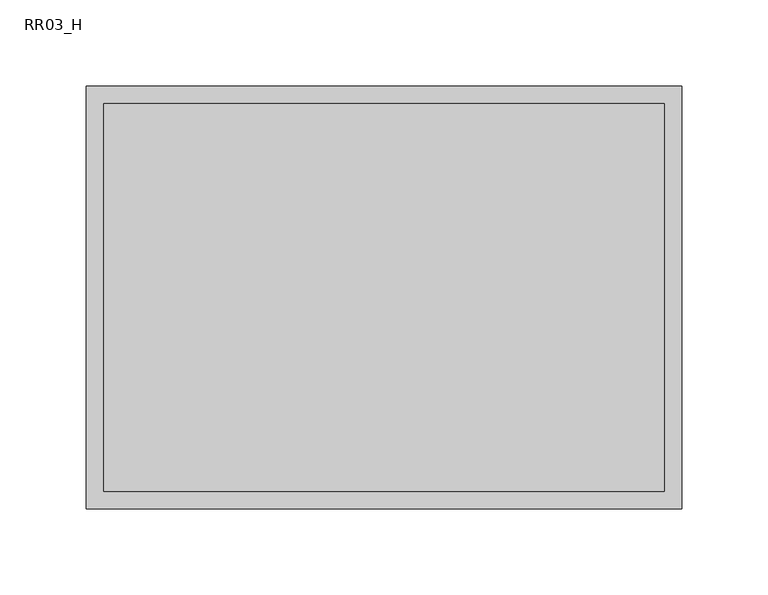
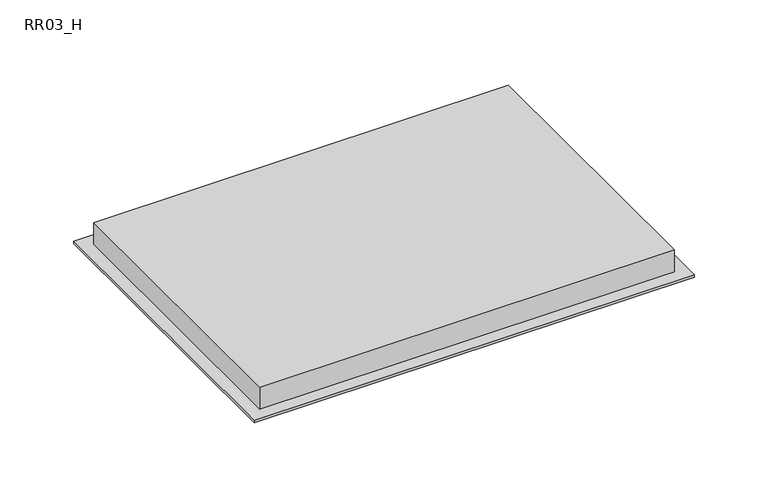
"""IFC4 building model written with IfcOpenShell, lengths in millimetres: air terminal geometry, ZYR_03.06.04.01 Reixa Sostre Retorn : RR03_H."""

from ifc_helpers import new_model, si_unit, origin, origin_with_axes, place, context, project, spatial, polyline, outline, extrude, source, transform, mapped, element, save


def rr03_h_99b76229(model_context):
    return source(origin(), model_context, "Body", "SweptSolid", [
        extrude(outline(polyline([(162.5, 112.5), (162.5, -112.5), (-162.5, -112.5), (-162.5, 112.5), (162.5, 112.5)])), origin_with_axes(), (0.0, 0.0, 1.0), 20.0),
        extrude(outline(polyline([(172.5, 122.5), (172.5, -122.5), (-172.5, -122.5), (-172.5, 122.5), (172.5, 122.5)]), holes=[polyline([(162.5, 112.5), (-162.5, 112.5), (-162.5, -112.5), (162.5, -112.5), (162.5, 112.5)])]), origin_with_axes(), (0.0, 0.0, 1.0), 2.0),
    ])


if __name__ == "__main__":
    model = new_model("IFC4")
    model_context = context("Model", 3, world=origin())
    ifc_project = project(units=[si_unit("LENGTHUNIT", "METRE", prefix="MILLI")], contexts=[model_context])
    site = spatial("IfcSite", under=ifc_project)
    building = spatial("IfcBuilding", under=site)
    placement = place(None, origin())
    rr03_h_shape = rr03_h_99b76229(model_context)
    element("IfcAirTerminal", 1, ObjectType="ZYR_03.06.04.01 Reixa Sostre Retorn : RR03_H", at=placement, inside=building, context=model_context, shape_type="MappedRepresentation", body=[
        mapped(rr03_h_shape, transform((0.0, 0.0, 0.0), x_axis=(1.0, 0.0, 0.0), y_axis=(0.0, 1.0, 0.0), z_axis=(0.0, 0.0, 1.0))),
    ])
    save(model, "model.ifc")
